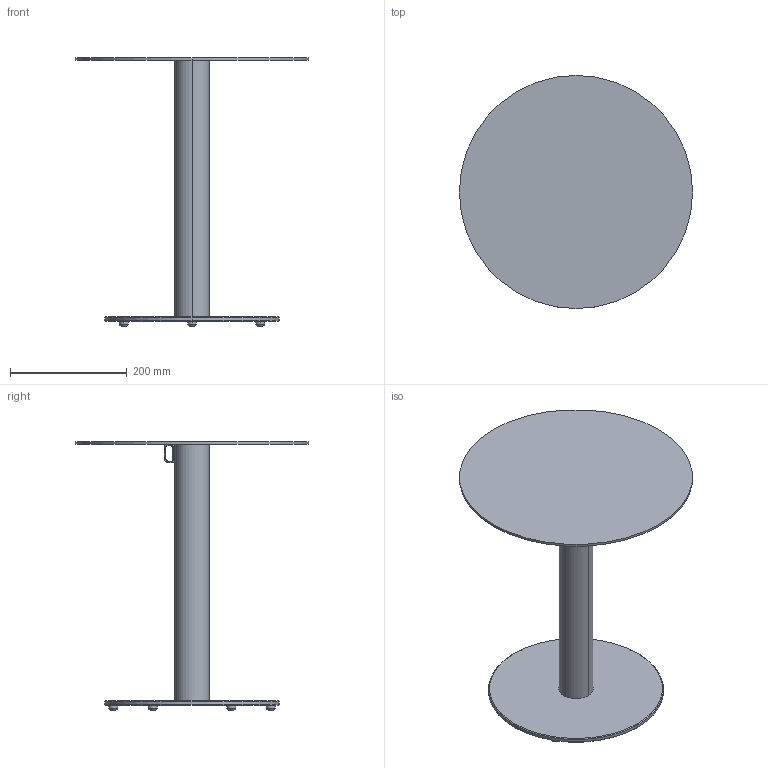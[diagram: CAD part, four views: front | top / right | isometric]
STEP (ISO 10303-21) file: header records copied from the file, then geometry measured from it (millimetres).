
FILE_DESCRIPTION(/* description */ (''),/* implementation_level */ '2;1');
FILE_NAME(/* name */ 'MAY_side_table',/* time_stamp */ '2026-01-20T11:24:04+01:00',/* author */ (''),/* organization */ (''),/* preprocessor_version */ 'ST-DEVELOPER v19.2',/* originating_system */ 'Rhino 8.25',/* authorisation */ '');
FILE_SCHEMA (('CONFIG_CONTROL_DESIGN'));
Length unit declared in the file: millimetre
Products named in the file (1): Document
Bounding box: 400 x 400 x 460 mm (x, y, z)
Volume: 3403266.3 mm3; surface area: 566238.3 mm2
Topology: 3 solids, 3 shells, 85 faces, 195 edges, 124 vertices
Faces by surface type: cylinder 37, bspline 26, plane 22
Entity records: 2987 total; most frequent: CARTESIAN_POINT 1015, ORIENTED_EDGE 390, DIRECTION 323, EDGE_CURVE 195, AXIS2_PLACEMENT_3D 191, TRIMMED_CURVE 130, CIRCLE 130, VERTEX_POINT 124
